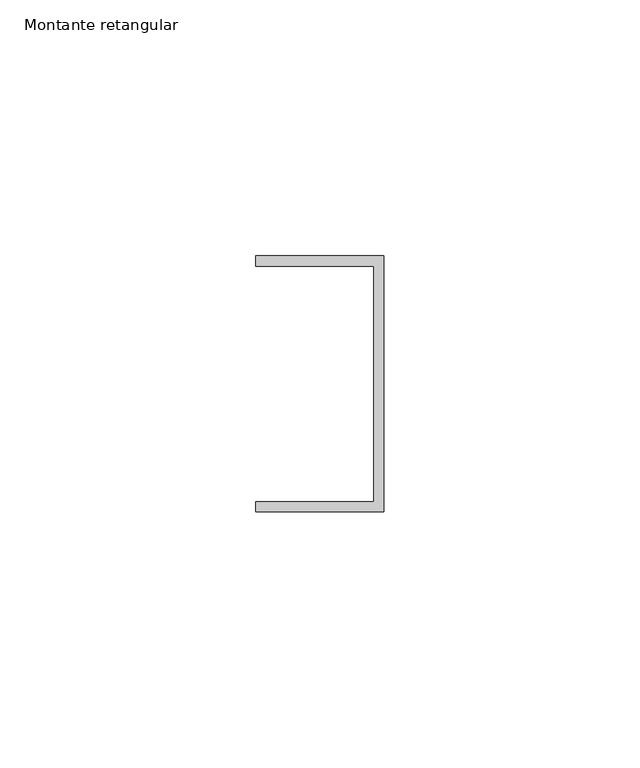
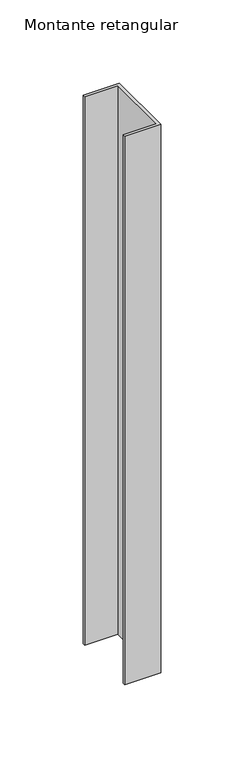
"""IFC4 building model written with IfcOpenShell, lengths in millimetres: member geometry, Montante retangular : FDE_MontanteVenezianaIndustrial_BordaOpção1_Ref50 (Alumínio Anodizado)."""

from ifc_helpers import new_model, si_unit, frame, origin, place, context, project, spatial, polyline, outline, extrude, source, transform, mapped, element, save


def montante_retangular_289212d8(model_context):
    return source(origin(), model_context, "Body", "SweptSolid", [
        extrude(outline(polyline([(0.0, 25.0), (0.0, -25.0), (-25.0, -25.0), (-25.0, -23.0), (-2.0, -23.0), (-2.0, 23.0), (-25.0, 23.0), (-25.0, 25.0), (0.0, 25.0)])), frame((0.0, 0.0, -402.8947368), z_axis=(0.0, 0.0, 1.0), x_axis=(1.0, 0.0, 0.0)), (0.0, 0.0, 1.0), 402.8947368),
    ])


if __name__ == "__main__":
    model = new_model("IFC4")
    model_context = context("Model", 3, world=origin())
    ifc_project = project(units=[si_unit("LENGTHUNIT", "METRE", prefix="MILLI")], contexts=[model_context])
    site = spatial("IfcSite", under=ifc_project)
    building = spatial("IfcBuilding", under=site)
    placement = place(None, origin())
    montante_retangular_shape = montante_retangular_289212d8(model_context)
    element("IfcMember", 1, ObjectType="Montante retangular : FDE_MontanteVenezianaIndustrial_BordaOpção1_Ref50 (Alumínio Anodizado)", at=placement, inside=building, context=model_context, shape_type="MappedRepresentation", body=[
        mapped(montante_retangular_shape, transform((0.0, 0.0, 0.0), x_axis=(1.0, 0.0, 0.0), y_axis=(0.0, 1.0, 0.0), z_axis=(0.0, 0.0, 1.0))),
    ])
    save(model, "model.ifc")
